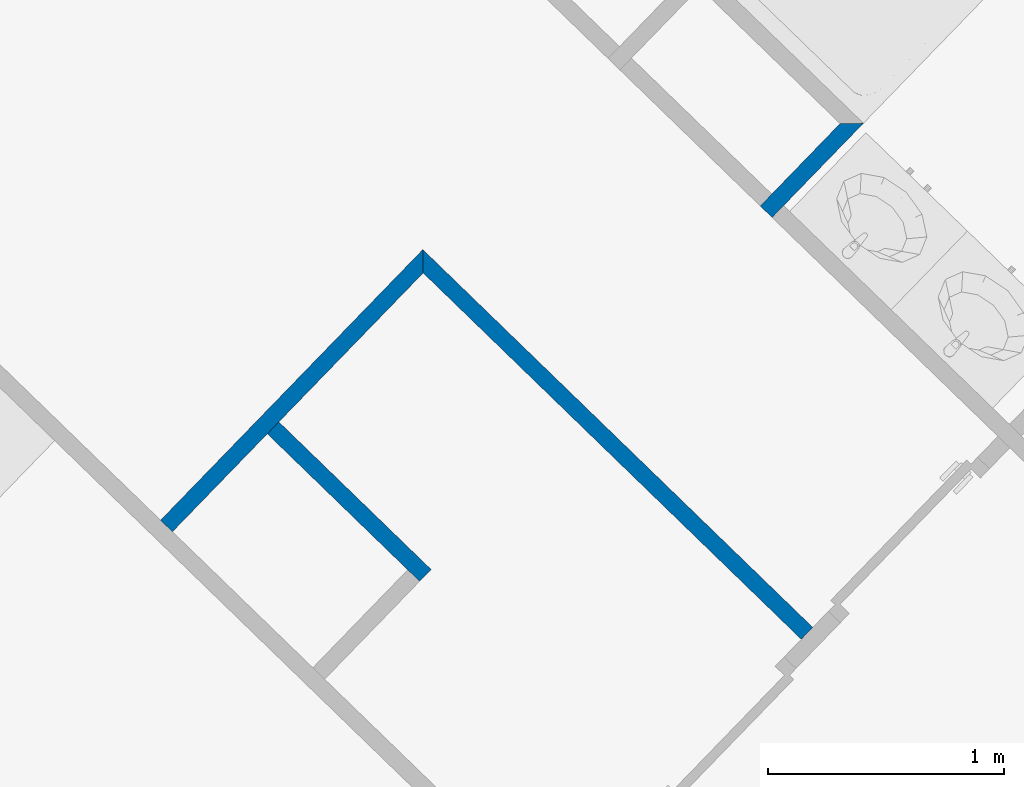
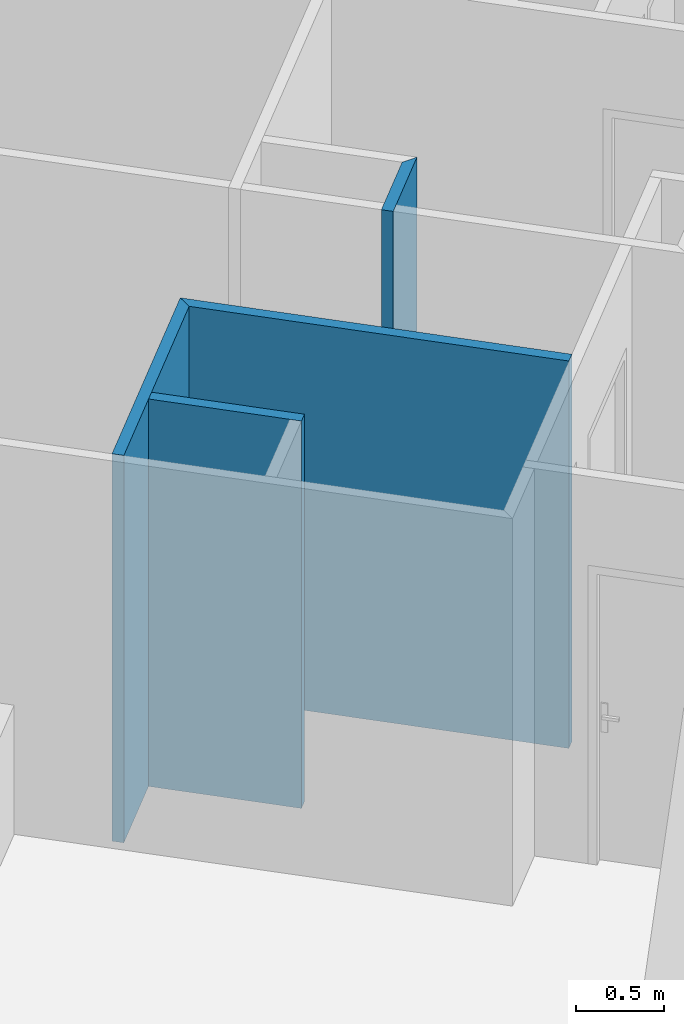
# One storey, part 13 of 121: 4 walls.
"""IFC2X3 building model written with IfcOpenShell, lengths in metres."""

from ifc_helpers import new_model, entity, si_unit, converted_unit, derived_unit, money_unit, direction, frame, origin_with_axes, place, context, subcontext, project, spatial, polyline, outline, extrude, material, layer, layer_set, layer_usage, type_object, element, save


model = new_model("IFC2X3")

# Units and contexts
model_context = context("Model", 3, precision=1e-05, world=origin_with_axes(), true_north=direction((0.0, 1.0)))
body_context = subcontext(model_context, "Body", "Model", "MODEL_VIEW")
ifc_project = project(units=[si_unit("LENGTHUNIT", "METRE"), si_unit("AREAUNIT", "SQUARE_METRE"), si_unit("VOLUMEUNIT", "CUBIC_METRE"), converted_unit("PLANEANGLEUNIT", "DEGREE", entity("IfcPlaneAngleMeasure", 0.0174532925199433), si_unit("PLANEANGLEUNIT", "RADIAN"), dimensions=[0, 0, 0, 0, 0, 0, 0]), money_unit("CHF"), converted_unit("TIMEUNIT", "Year", entity("IfcTimeMeasure", 31557600.0), si_unit("TIMEUNIT", "SECOND"), dimensions=[0, 0, 1, 0, 0, 0, 0]), si_unit("MASSUNIT", "GRAM", prefix="KILO"), si_unit("THERMODYNAMICTEMPERATUREUNIT", "DEGREE_CELSIUS"), si_unit("LUMINOUSINTENSITYUNIT", "LUMEN"), si_unit("ENERGYUNIT", "JOULE", prefix="MEGA"), derived_unit("THERMALCONDUCTANCEUNIT", [(si_unit("POWERUNIT", "WATT"), 1), (si_unit("LENGTHUNIT", "METRE"), -1), (si_unit("THERMODYNAMICTEMPERATUREUNIT", "KELVIN"), -1)]), derived_unit("SPECIFICHEATCAPACITYUNIT", [(si_unit("ENERGYUNIT", "JOULE"), 1), (si_unit("MASSUNIT", "GRAM", prefix="KILO"), -1), (si_unit("THERMODYNAMICTEMPERATUREUNIT", "KELVIN"), -1)]), derived_unit("MASSDENSITYUNIT", [(si_unit("MASSUNIT", "GRAM", prefix="KILO"), 1), (si_unit("VOLUMEUNIT", "CUBIC_METRE"), -1)])], contexts=[model_context])

# Site, building, storey
site_placement = place(None, origin_with_axes())
site = spatial("IfcSite", under=ifc_project, at=site_placement, Name="Site", CompositionType="ELEMENT")
building_placement = place(site_placement, origin_with_axes())
building = spatial("IfcBuilding", under=site, at=building_placement, Name="Bâtiment", CompositionType="ELEMENT")
storey_placement = place(building_placement, frame((0.0, 0.0, 2.75), z_axis=(0.0, 0.0, 1.0), x_axis=(1.0, 0.0, 0.0)))
storey = spatial("IfcBuildingStorey", under=building, at=storey_placement, Name="Etage 1", CompositionType="ELEMENT", Elevation=2.75)

# Walls
ifc_material = material(Name="Hachure solide 268963992")
ifc_layer = layer(ifc_material, 0.07, ventilated="UNKNOWN")
ifc_layer_set = layer_set([ifc_layer], Name="Cloison 70 0826278243")
ifc_layer_usage_1 = layer_usage(ifc_layer_set, "AXIS2", "NEGATIVE", 0.0)
wall_type = type_object("IfcWallType", Name="Cloison 70 0826278243 70", PredefinedType="NOTDEFINED")
wall_1_placement = place(storey_placement, frame((9520.613337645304, -1059.50694363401, 57.7), z_axis=(0.0, 0.0, 1.0), x_axis=(0.6958610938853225, 0.7181763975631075, 0.0)))
element("IfcWallStandardCase", 1, at=wall_1_placement, inside=storey, type_object=wall_type, material=ifc_layer_usage_1, Name="Mur-149", context=body_context, shape_type="SweptSolid", body=[
    extrude(outline(polyline([(0.0, -0.07000000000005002), (0.5570134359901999, -0.06999999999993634), (0.4870134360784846, 0.0), (0.0, 0.0), (0.0, -0.07000000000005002)])), origin_with_axes(), (0.0, 0.0, 1.0), 2.7),
])
ifc_layer_usage_2 = layer_usage(ifc_layer_set, "AXIS2", "POSITIVE", 0.0)
wall_2_placement = place(storey_placement, frame((9519.215582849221, -1061.050117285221, 57.7), z_axis=(0.0, 0.0, 1.0), x_axis=(-0.7181763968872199, 0.6958610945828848, 0.0)))
element("IfcWallStandardCase", 2, at=wall_2_placement, inside=storey, type_object=wall_type, material=ifc_layer_usage_2, Name="Mur-149", context=body_context, shape_type="SweptSolid", body=[
    extrude(outline(polyline([(0.0, 0.0), (0.8999999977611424, 0.0), (0.899999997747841, 0.07000000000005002), (0.0, 0.06999999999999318), (0.0, 0.0)])), origin_with_axes(), (0.0, 0.0, 1.0), 2.7),
])
ifc_layer_usage_3 = layer_usage(ifc_layer_set, "AXIS2", "NEGATIVE", 0.0)
wall_3_placement = place(storey_placement, frame((9520.837718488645, -1061.395251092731, 57.7), z_axis=(0.0, 0.0, 1.0), x_axis=(-0.71817639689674, 0.6958610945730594, 0.0)))
element("IfcWallStandardCase", 3, at=wall_3_placement, inside=storey, type_object=wall_type, material=ifc_layer_usage_3, Name="Mur-149", context=body_context, shape_type="SweptSolid", body=[
    extrude(outline(polyline([(0.07000000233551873, -0.07000000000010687), (2.375144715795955, -0.07000000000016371), (2.30514471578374, 0.0), (0.07000000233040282, 0.0), (0.07000000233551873, -0.07000000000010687)])), origin_with_axes(), (0.0, 0.0, 1.0), 2.7),
])
ifc_layer_usage_4 = layer_usage(ifc_layer_set, "AXIS2", "NEGATIVE", 0.0)
wall_4_placement = place(storey_placement, frame((9519.182217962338, -1059.791190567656, 57.7), z_axis=(0.0, 0.0, 1.0), x_axis=(-0.695861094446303, -0.7181763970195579, 0.0)))
element("IfcWallStandardCase", 4, at=wall_4_placement, inside=storey, type_object=wall_type, material=ifc_layer_usage_4, Name="Mur-149", context=body_context, shape_type="SweptSolid", body=[
    extrude(outline(polyline([(-0.07000000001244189, -0.07000000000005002), (1.530000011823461, -0.06999999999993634), (1.530000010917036, 0.0), (0.0, 0.0), (-0.07000000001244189, -0.07000000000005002)])), origin_with_axes(), (0.0, 0.0, 1.0), 2.7),
])

save(model, "model.ifc")
